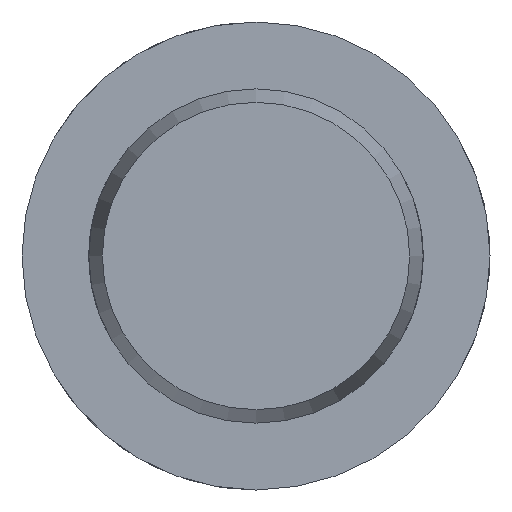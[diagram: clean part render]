
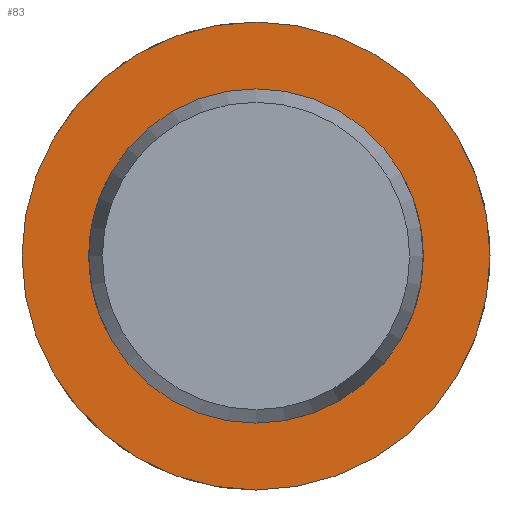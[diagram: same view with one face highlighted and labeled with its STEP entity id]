
A CAD part, left-side view. The second image highlights one B-rep face of the part: STEP entity #83.
In plain terms, the highlighted planar face has unit normal (-1, 0, 0).
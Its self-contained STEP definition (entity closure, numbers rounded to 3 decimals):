
#83 = ADVANCED_FACE( '', ( #128, #129 ), #130, .F. );
#128 = FACE_OUTER_BOUND( '', #204, .T. );
#129 = FACE_BOUND( '', #205, .T. );
#130 = PLANE( '', #206 );
#204 = EDGE_LOOP( '', ( #318 ) );
#205 = EDGE_LOOP( '', ( #319 ) );
#206 = AXIS2_PLACEMENT_3D( '', #320, #321, #322 );
#318 = ORIENTED_EDGE( '', *, *, #481, .F. );
#319 = ORIENTED_EDGE( '', *, *, #471, .T. );
#320 = CARTESIAN_POINT( '', ( 54.6, 5., 0. ) );
#321 = DIRECTION( '', ( 1., 0., 0. ) );
#322 = DIRECTION( '', ( 0., 0., -1. ) );
#471 = EDGE_CURVE( '', #541, #541, #542, .T. );
#481 = EDGE_CURVE( '', #559, #559, #560, .T. );
#541 = VERTEX_POINT( '', #726 );
#542 = CIRCLE( '', #727, 5. );
#559 = VERTEX_POINT( '', #881 );
#560 = CIRCLE( '', #882, 7. );
#726 = CARTESIAN_POINT( '', ( 54.6, 0., -5. ) );
#727 = AXIS2_PLACEMENT_3D( '', #943, #944, #945 );
#881 = CARTESIAN_POINT( '', ( 54.6, 0., -7. ) );
#882 = AXIS2_PLACEMENT_3D( '', #964, #965, #966 );
#943 = CARTESIAN_POINT( '', ( 54.6, 0., 0. ) );
#944 = DIRECTION( '', ( 1., 0., 0. ) );
#945 = DIRECTION( '', ( 0., 0., -1. ) );
#964 = CARTESIAN_POINT( '', ( 54.6, 0., 0. ) );
#965 = DIRECTION( '', ( 1., 0., 0. ) );
#966 = DIRECTION( '', ( 0., 0., -1. ) );
